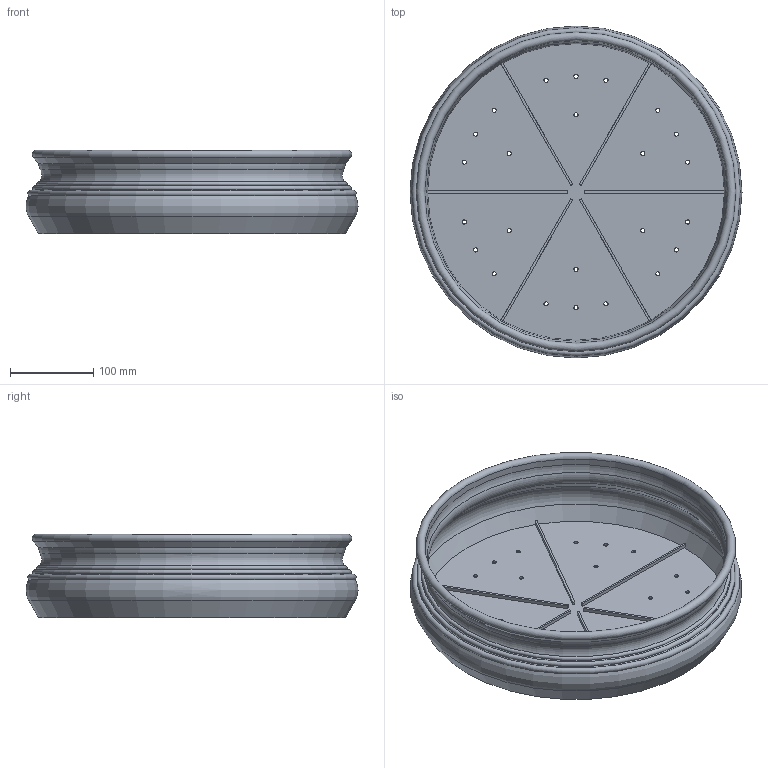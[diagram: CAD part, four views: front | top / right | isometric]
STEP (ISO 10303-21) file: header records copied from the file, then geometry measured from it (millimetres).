
FILE_DESCRIPTION(/* description */ (''),/* implementation_level */ '2;1');
FILE_NAME(/* name */ 'LR2406-S25-H100-D400_step.step',/* time_stamp */ '2024-02-01T10:59:51+01:00',/* author */ (''),/* organization */ (''),/* preprocessor_version */ 'ST-DEVELOPER v20',/* originating_system */ 'Autodesk Translation Framework v12.20.1.177',/* authorisation */ '');
FILE_SCHEMA (('AUTOMOTIVE_DESIGN { 1 0 10303 214 3 1 1 }'));
Length unit declared in the file: millimetre
Products named in the file (1): LR2406-S25-H100-D400
Bounding box: 398 x 398 x 100 mm (x, y, z)
Volume: 683074.7 mm3; surface area: 495272.6 mm2
Topology: 1 solids, 1 shells, 67 faces, 179 edges, 114 vertices
Faces by surface type: cylinder 31, plane 20, torus 10, cone 6
Full cylindrical faces by diameter (mm): 5 x24, 363 x1
Entity records: 2261 total; most frequent: DIRECTION 415, CARTESIAN_POINT 361, ORIENTED_EDGE 358, EDGE_CURVE 179, AXIS2_PLACEMENT_3D 168, EDGE_LOOP 115, VERTEX_POINT 114, CIRCLE 100
